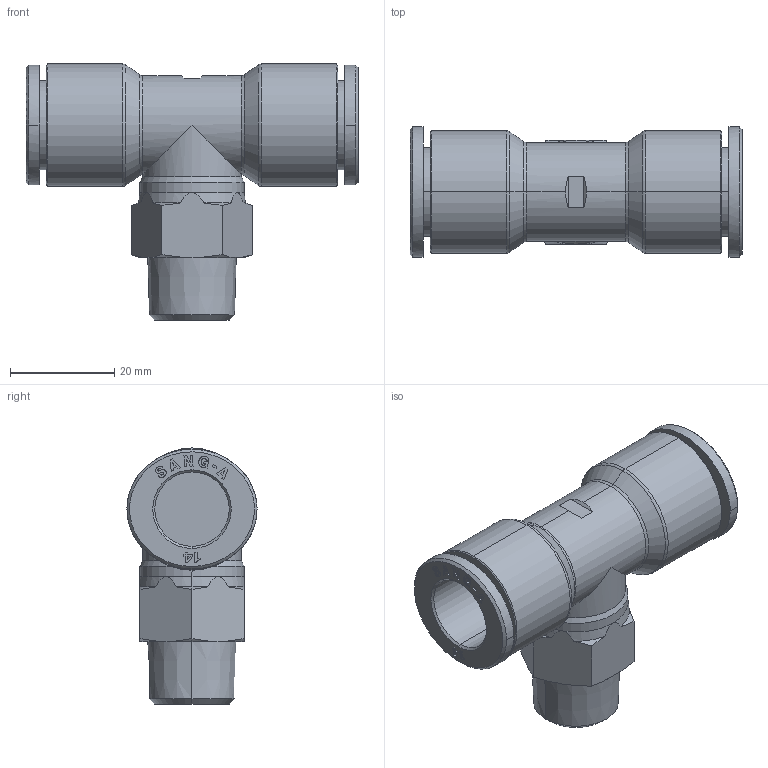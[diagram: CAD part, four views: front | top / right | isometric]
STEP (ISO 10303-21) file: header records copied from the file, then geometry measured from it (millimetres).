
FILE_DESCRIPTION((''),'2;1');
FILE_NAME('GPT 1403(3D).stp','2012-12-26T18:55:55',(''),(''),'Mechanical Desktop.R8.0.24.0','Mechanical Desktop.R8.0.24.0',', , ');
FILE_SCHEMA(('CONFIG_CONTROL_DESIGN'));
Length unit declared in the file: millimetre
Products named in the file (2): GPT 1403(3D); 睡ヶ1
Assembly tree (1 placements, depth 2):
  GPT 1403(3D)
    睡ヶ1
Bounding box: 63.8 x 25 x 49.2 mm (x, y, z)
Volume: 22553.1 mm3; surface area: 10729.9 mm2
Topology: 1 solids, 1 shells, 371 faces, 966 edges, 625 vertices
Faces by surface type: plane 221, bspline 62, cone 46, cylinder 38, torus 4
Entity records: 12999 total; most frequent: CARTESIAN_POINT 3952, ORIENTED_EDGE 1928, DIRECTION 1782, EDGE_CURVE 964, VECTOR 672, LINE 672, VERTEX_POINT 625, AXIS2_PLACEMENT_3D 555
